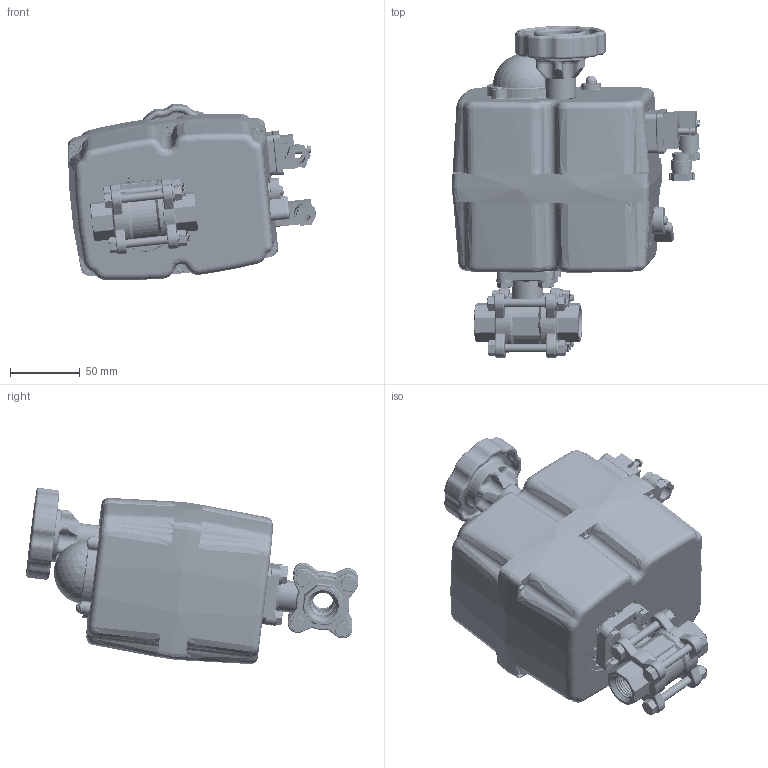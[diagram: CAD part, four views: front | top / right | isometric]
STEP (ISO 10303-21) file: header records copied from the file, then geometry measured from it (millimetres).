
FILE_DESCRIPTION((''),'2;1');
FILE_NAME('P:\CAD Daten\TA-Produkte\angetriebene Armaturen\Register 9\RB_791x\7910_015_S20.stp','2024-07-03T10:39:58',('Gi'),(''),'Autodesk Inventor 2012','Autodesk Inventor 2012','');
FILE_SCHEMA(('CONFIG_CONTROL_DESIGN'));
Length unit declared in the file: millimetre
Products named in the file (1): 7910_015_S20
Bounding box: 177.69 x 237.5 x 126 mm (x, y, z)
Volume: 13109.1 mm3; surface area: 286068.9 mm2
Topology: 39 solids, 44 shells, 4751 faces, 12511 edges, 7901 vertices
Faces by surface type: plane 1789, cylinder 1165, cone 673, torus 527, bspline 483, sphere 114
Full cylindrical faces by diameter (mm): 1.5 x10, 2.5 x4, 3 x47, 3.5 x13, 3.55 x8, 3.75 x2, 3.8 x1, 3.9 x8, 3.96 x8, 4 x34, 4.25 x2, 4.5 x8, 4.7 x4, 4.9 x2, 4.917 x9, 5 x9, 5.7 x3, 6 x27, 6.4 x4, 6.5 x12, 6.7 x8, 7 x8, 7.5 x7, 8 x9, 8.05 x1, 8.1 x1, 8.88 x4, 8.9 x2, 9 x2, 10 x3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
Entity records: 234569 total; most frequent: CARTESIAN_POINT 123393, ORIENTED_EDGE 22252, DIRECTION 21800, EDGE_CURVE 11126, AXIS2_PLACEMENT_3D 8604, VERTEX_POINT 7579, EDGE_LOOP 6039, FACE_OUTER_BOUND 4714
